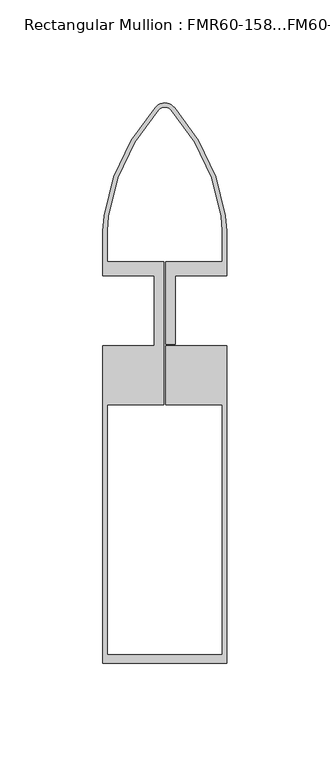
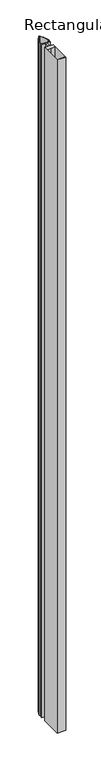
"""IFC4 building model written with IfcOpenShell, lengths in millimetres: member geometry, Rectangular Mullion : FMR60-158...FM60-80."""

from ifc_helpers import new_model, si_unit, frame, origin, place, context, project, spatial, polyline, circle_curve, source, transform, mapped, element, save
from ifc_brep_helpers import plane_surface, cylinder_surface, revolved_surface, advanced_brep


def rectangular_mullion_fmr60_158_fm60_80_e0a089fe(model_context):
    return source(origin(), model_context, "Body", "AdvancedBrep", [
        advanced_brep(
        [(-29.4612692, 46.2333488, 0.0), (-30.0, 38.9133183, 0.0), (-30.0, 17.0, 0.0), (-5.0, 17.0, 0.0), (-5.0, -17.0, 0.0), (-30.0, -17.0, 0.0), (-30.0, -171.009342, 0.0), (30.0, -171.009342, 0.0), (30.0, -17.0, 0.0), (0.5, -17.0, 0.0), (0.5, -45.5034642, 0.0), (28.0, -45.5034642, 0.0), (28.0, -167.009342, 0.0), (-28.0, -167.009342, 0.0), (-28.0, -45.5034642, 0.0), (-0.5, -45.5034642, 0.0), (-0.5, 23.8476589, 0.0), (-28.0, 23.8476589, 0.0), (-28.0, 38.9133183, 0.0), (-27.4828185, 45.9405476, 0.0), (-3.1488975, 97.4169663, 0.0), (0.0, 98.9502996, 0.0), (3.1488975, 97.4169663, 0.0), (27.4828185, 45.9405476, 0.0), (28.0, 38.9133183, 0.0), (28.0000412, 23.8476589, 0.0), (0.5, 23.8476589, 0.0), (0.5, -16.2, 0.0), (5.0, -16.2, 0.0), (5.0, 17.0, 0.0), (30.0, 17.0, 0.0), (30.0, 38.9133183, 0.0), (29.4612692, 46.2333488, 0.0), (4.7233463, 98.6502996, 0.0), (0.0, 100.9502996, 0.0), (-4.7233463, 98.6502996, 0.0), (-29.4612692, 46.2333488, -5000.0), (-4.7233463, 98.6502996, -5000.0), (0.0, 100.9502996, -5000.0), (4.7233463, 98.6502996, -5000.0), (29.4612692, 46.2333488, -5000.0), (30.0, 38.9133183, -5000.0), (30.0, 17.0, -5000.0), (5.0, 17.0, -5000.0), (5.0, -16.2, -5000.0), (0.5, -16.2, -5000.0), (0.5, 23.8476589, -5000.0), (28.0000412, 23.8476589, -5000.0), (28.0000412, 38.9133183, -5000.0), (27.4828185, 45.9405476, -5000.0), (3.1488975, 97.4169663, -5000.0), (0.0, 98.9502996, -5000.0), (-3.1488975, 97.4169663, -5000.0), (-27.4828185, 45.9405476, -5000.0), (-28.0, 38.9133183, -5000.0), (-28.0, 23.8476589, -5000.0), (-0.5, 23.8476589, -5000.0), (-0.5, -45.5034642, -5000.0), (-28.0, -45.5034642, -5000.0), (-28.0, -167.009342, -5000.0), (28.0, -167.009342, -5000.0), (28.0, -45.5034642, -5000.0), (0.5, -45.5034642, -5000.0), (0.5, -17.0, -5000.0), (30.0, -17.0, -5000.0), (30.0, -171.009342, -5000.0), (-30.0, -171.009342, -5000.0), (-30.0, -17.0, -5000.0), (-5.0, -17.0, -5000.0), (-5.0, 17.0, -5000.0), (-30.0, 17.0, -5000.0), (-30.0, 38.9133183, -5000.0)],
        [
            (0, 1, circle_curve(frame((20.0, 38.9133183, 0.0), z_axis=(0.0, 0.0, 1.0), x_axis=(-1.0, 0.0, 0.0)), 50.0)),
            (1, 2),
            (2, 3),
            (3, 4),
            (4, 5),
            (5, 6),
            (6, 7),
            (7, 8),
            (8, 9),
            (9, 10),
            (10, 11),
            (11, 12),
            (12, 13),
            (13, 14),
            (14, 15),
            (15, 16),
            (16, 17),
            (17, 18),
            (18, 19, circle_curve(frame((20.0, 38.9133183, 0.0), z_axis=(0.0, 0.0, -1.0), x_axis=(-0.9892253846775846, 0.14640060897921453, 0.0)), 48.0)),
            (19, 20, circle_curve(frame((69.5179996, 31.5761151, 0.0), z_axis=(0.0, 0.0, -1.0), x_axis=(-0.7410555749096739, 0.6714436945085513, 0.0)), 98.0586336)),
            (20, 21, circle_curve(frame((0.0, 94.9502996, 0.0), z_axis=(0.0, 0.0, -1.0), x_axis=(0.0, 1.0, 0.0)), 4.0)),
            (21, 22, circle_curve(frame((0.0, 94.9502996, 0.0), z_axis=(0.0, 0.0, -1.0), x_axis=(0.7872243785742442, 0.6166666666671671, 0.0)), 4.0)),
            (22, 23, circle_curve(frame((-69.5179996, 31.5761151, 0.0), z_axis=(0.0, 0.0, -1.0), x_axis=(0.9892124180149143, 0.14648819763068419, 0.0)), 98.0586336)),
            (23, 24, circle_curve(frame((-20.0, 38.9133183, 0.0), z_axis=(0.0, 0.0, -1.0), x_axis=(1.0, 0.0, 0.0)), 48.0)),
            (24, 25),
            (25, 26),
            (26, 27),
            (27, 28),
            (28, 29),
            (29, 30),
            (30, 31),
            (31, 32, circle_curve(frame((-20.0, 38.9133183, 0.0), z_axis=(0.0, 0.0, 1.0), x_axis=(0.9892253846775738, 0.14640060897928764, 0.0)), 50.0)),
            (32, 33, circle_curve(frame((-69.4612692, 31.5932879, 0.0), z_axis=(0.0, 0.0, 1.0), x_axis=(0.7418461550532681, 0.670570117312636, 0.0)), 100.0)),
            (33, 34, circle_curve(frame((0.0, 94.9502996, 0.0), z_axis=(0.0, 0.0, 1.0), x_axis=(0.0, 1.0, 0.0)), 6.0)),
            (34, 35, circle_curve(frame((0.0, 94.9502996, 0.0), z_axis=(0.0, 0.0, 1.0), x_axis=(-0.7872243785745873, 0.6166666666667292, 0.0)), 6.0)),
            (35, 0, circle_curve(frame((69.4612692, 31.5932879, 0.0), z_axis=(0.0, 0.0, 1.0), x_axis=(-0.9892253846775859, 0.14640060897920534, 0.0)), 100.0)),
            (36, 37, circle_curve(frame((69.4612692, 31.5932879, -5000.0), z_axis=(0.0, 0.0, -1.0), x_axis=(-0.9892253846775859, 0.14640060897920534, 0.0)), 100.0)),
            (37, 38, circle_curve(frame((0.0, 94.9502996, -5000.0), z_axis=(0.0, 0.0, -1.0), x_axis=(-0.7872243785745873, 0.6166666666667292, 0.0)), 6.0)),
            (38, 39, circle_curve(frame((0.0, 94.9502996, -5000.0), z_axis=(0.0, 0.0, -1.0), x_axis=(0.0, 1.0, 0.0)), 6.0)),
            (39, 40, circle_curve(frame((-69.4612692, 31.5932879, -5000.0), z_axis=(0.0, 0.0, -1.0), x_axis=(0.7418461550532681, 0.670570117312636, 0.0)), 100.0)),
            (40, 41, circle_curve(frame((-20.0, 38.9133183, -5000.0), z_axis=(0.0, 0.0, -1.0), x_axis=(0.9892253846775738, 0.14640060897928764, 0.0)), 50.0)),
            (41, 42),
            (42, 43),
            (43, 44),
            (44, 45),
            (45, 46),
            (46, 47),
            (47, 48),
            (48, 49, circle_curve(frame((-20.0, 38.9133183, -5000.0), z_axis=(0.0, 0.0, 1.0), x_axis=(1.0, 0.0, 0.0)), 48.0)),
            (49, 50, circle_curve(frame((-69.5179996, 31.5761151, -5000.0), z_axis=(0.0, 0.0, 1.0), x_axis=(0.9892124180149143, 0.14648819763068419, 0.0)), 98.0586336)),
            (50, 51, circle_curve(frame((0.0, 94.9502996, -5000.0), z_axis=(0.0, 0.0, 1.0), x_axis=(0.7872243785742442, 0.6166666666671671, 0.0)), 4.0)),
            (51, 52, circle_curve(frame((0.0, 94.9502996, -5000.0), z_axis=(0.0, 0.0, 1.0), x_axis=(0.0, 1.0, 0.0)), 4.0)),
            (52, 53, circle_curve(frame((69.5179996, 31.5761151, -5000.0), z_axis=(0.0, 0.0, 1.0), x_axis=(-0.7410555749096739, 0.6714436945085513, 0.0)), 98.0586336)),
            (53, 54, circle_curve(frame((20.0, 38.9133183, -5000.0), z_axis=(0.0, 0.0, 1.0), x_axis=(-0.9892253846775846, 0.14640060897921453, 0.0)), 48.0)),
            (54, 55),
            (55, 56),
            (56, 57),
            (57, 58),
            (58, 59),
            (59, 60),
            (60, 61),
            (61, 62),
            (62, 63),
            (63, 64),
            (64, 65),
            (65, 66),
            (66, 67),
            (67, 68),
            (68, 69),
            (69, 70),
            (70, 71),
            (71, 36, circle_curve(frame((20.0, 38.9133183, -5000.0), z_axis=(0.0, 0.0, -1.0), x_axis=(-1.0, 0.0, 0.0)), 50.0)),
            (0, 36),
            (71, 1),
            (70, 2),
            (69, 3),
            (68, 4),
            (67, 5),
            (66, 6),
            (65, 7),
            (64, 8),
            (63, 9),
            (62, 10),
            (61, 11),
            (60, 12),
            (59, 13),
            (58, 14),
            (57, 15),
            (56, 16),
            (55, 17),
            (54, 18),
            (53, 19),
            (52, 20),
            (51, 21),
            (50, 22),
            (49, 23),
            (48, 24),
            (47, 25),
            (46, 26),
            (45, 27),
            (44, 28),
            (43, 29),
            (42, 30),
            (41, 31),
            (40, 32),
            (39, 33),
            (38, 34),
            (37, 35),
        ],
        [
            plane_surface(frame((0.0, -173.6208371, 0.0), z_axis=(0.0, 0.0, 1.0), x_axis=(-1.0, 0.0, 0.0))),
            plane_surface(frame((0.0, -173.6208371, -5000.0), z_axis=(0.0, 0.0, -1.0), x_axis=(-1.0, 0.0, 0.0))),
            cylinder_surface(frame((20.0, 38.9133183, 0.0), z_axis=(0.0, 0.0, 1.0), x_axis=(-1.0, 0.0, 0.0)), 50.0),
            plane_surface(frame((-30.0, 38.9133183, 0.0), z_axis=(-1.0, 0.0, 0.0), x_axis=(0.0, 0.0, -1.0))),
            plane_surface(frame((-30.0, 17.0, 0.0), z_axis=(0.0, -1.0, 0.0), x_axis=(0.0, 0.0, -1.0))),
            plane_surface(frame((-5.0, 17.0, 0.0), z_axis=(-1.0, 0.0, 0.0), x_axis=(0.0, 0.0, -1.0))),
            plane_surface(frame((-5.0, -17.0, 0.0), z_axis=(0.0, 1.0, 0.0), x_axis=(0.0, 0.0, -1.0))),
            plane_surface(frame((-30.0, -17.0, 0.0), z_axis=(-1.0, 0.0, 0.0), x_axis=(0.0, 0.0, -1.0))),
            plane_surface(frame((-30.0, -171.009342, 0.0), z_axis=(0.0, -1.0, 0.0), x_axis=(0.0, 0.0, -1.0))),
            plane_surface(frame((30.0, -171.009342, 0.0), z_axis=(1.0, 0.0, 0.0), x_axis=(0.0, 0.0, -1.0))),
            plane_surface(frame((30.0, -17.0, 0.0), z_axis=(0.0, 1.0, 0.0), x_axis=(0.0, 0.0, -1.0))),
            plane_surface(frame((0.5, -17.0, 0.0), z_axis=(-1.0, 0.0, 0.0), x_axis=(0.0, 0.0, -1.0))),
            plane_surface(frame((0.5, -45.5034642, 0.0), z_axis=(0.0, -1.0, 0.0), x_axis=(0.0, 0.0, -1.0))),
            plane_surface(frame((28.0, -45.5034642, 0.0), z_axis=(-1.0, 0.0, 0.0), x_axis=(0.0, 0.0, -1.0))),
            plane_surface(frame((28.0, -167.009342, 0.0), z_axis=(0.0, 1.0, 0.0), x_axis=(0.0, 0.0, -1.0))),
            plane_surface(frame((-28.0, -167.009342, 0.0), z_axis=(1.0, 0.0, 0.0), x_axis=(0.0, 0.0, -1.0))),
            plane_surface(frame((-28.0, -45.5034642, 0.0), z_axis=(0.0, -1.0, 0.0), x_axis=(0.0, 0.0, -1.0))),
            plane_surface(frame((-0.5, -45.5034642, 0.0), z_axis=(1.0, 0.0, 0.0), x_axis=(0.0, 0.0, -1.0))),
            plane_surface(frame((-0.5, 23.8476589, 0.0), z_axis=(0.0, 1.0, 0.0), x_axis=(0.0, 0.0, -1.0))),
            plane_surface(frame((-28.0, 23.8476589, 0.0), z_axis=(1.0, 0.0, 0.0), x_axis=(0.0, 0.0, -1.0))),
            revolved_surface(polyline([(-27.48281846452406, 45.940547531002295, -5000.0), (-27.48281846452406, 45.940547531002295, 0.0)]), (20.0, 38.9133183, 0.0), (0.0, 0.0, -1.0)),
            revolved_surface(polyline([(-3.1488974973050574, 97.41696632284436, -5000.000000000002), (-3.1488974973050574, 97.41696632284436, 0.0)]), (69.5179996, 31.5761151, 0.0), (0.0, 0.0, -1.0000000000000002)),
            revolved_surface(polyline([(0.0, 98.9502996, -5000.0), (0.0, 98.9502996, 0.0)]), (0.0, 94.9502996, 0.0), (0.0, 0.0, -1.0)),
            revolved_surface(polyline([(3.148897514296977, 97.41696626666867, -5000.0), (3.148897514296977, 97.41696626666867, 0.0)]), (0.0, 94.9502996, 0.0), (0.0, 0.0, -1.0)),
            revolved_surface(polyline([(27.482818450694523, 45.94054759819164, -5000.0), (27.482818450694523, 45.94054759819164, 0.0)]), (-69.5179996, 31.5761151, 0.0), (0.0, 0.0, -1.0)),
            revolved_surface(polyline([(28.0, 38.9133183, -5000.0), (28.0, 38.9133183, 0.0)]), (-20.0, 38.9133183, 0.0), (0.0, 0.0, -1.0)),
            plane_surface(frame((28.0000412, 38.9133183, 0.0), z_axis=(-1.0, 0.0, 0.0), x_axis=(0.0, 0.0, -1.0))),
            plane_surface(frame((28.0000412, 23.8476589, 0.0), z_axis=(0.0, 1.0, 0.0), x_axis=(0.0, 0.0, -1.0))),
            plane_surface(frame((0.5, 23.8476589, 0.0), z_axis=(-1.0, 0.0, 0.0), x_axis=(0.0, 0.0, -1.0))),
            plane_surface(frame((0.5, -16.2, 0.0), z_axis=(0.0, -1.0, 0.0), x_axis=(0.0, 0.0, -1.0))),
            plane_surface(frame((5.0, -16.2, 0.0), z_axis=(1.0, 0.0, 0.0), x_axis=(0.0, 0.0, -1.0))),
            plane_surface(frame((5.0, 17.0, 0.0), z_axis=(0.0, -1.0, 0.0), x_axis=(0.0, 0.0, -1.0))),
            plane_surface(frame((30.0, 17.0, 0.0), z_axis=(1.0, 0.0, 0.0), x_axis=(0.0, 0.0, -1.0))),
            cylinder_surface(frame((-20.0, 38.9133183, 0.0), z_axis=(0.0, 0.0, 1.0000000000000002), x_axis=(0.9892253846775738, 0.14640060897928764, 0.0)), 50.0),
            cylinder_surface(frame((-69.4612692, 31.5932879, 0.0), z_axis=(0.0, 0.0, 1.0), x_axis=(0.7418461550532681, 0.670570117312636, 0.0)), 100.0),
            cylinder_surface(frame((0.0, 94.9502996, 0.0), z_axis=(0.0, 0.0, 1.0), x_axis=(0.0, 1.0, 0.0)), 6.0),
            cylinder_surface(frame((0.0, 94.9502996, 0.0), z_axis=(0.0, 0.0, 1.0), x_axis=(-0.7872243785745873, 0.6166666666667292, 0.0)), 6.0),
            cylinder_surface(frame((69.4612692, 31.5932879, 0.0), z_axis=(0.0, 0.0, 1.0), x_axis=(-0.9892253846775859, 0.14640060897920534, 0.0)), 100.0),
        ],
        [
            (0, [[1, 2, 3, 4, 5, 6, 7, 8, 9, 10, 11, 12, 13, 14, 15, 16, 17, 18, 19, 20, 21, 22, 23, 24, 25, 26, 27, 28, 29, 30, 31, 32, 33, 34, 35, 36]]),
            (1, [[37, 38, 39, 40, 41, 42, 43, 44, 45, 46, 47, 48, 49, 50, 51, 52, 53, 54, 55, 56, 57, 58, 59, 60, 61, 62, 63, 64, 65, 66, 67, 68, 69, 70, 71, 72]]),
            (2, [[-1, 73, -72, 74]]),
            (3, [[-2, -74, -71, 75]]),
            (4, [[-3, -75, -70, 76]]),
            (5, [[-4, -76, -69, 77]]),
            (6, [[-5, -77, -68, 78]]),
            (7, [[-6, -78, -67, 79]]),
            (8, [[-7, -79, -66, 80]]),
            (9, [[-8, -80, -65, 81]]),
            (10, [[-9, -81, -64, 82]]),
            (11, [[-10, -82, -63, 83]]),
            (12, [[-11, -83, -62, 84]]),
            (13, [[-12, -84, -61, 85]]),
            (14, [[-13, -85, -60, 86]]),
            (15, [[-14, -86, -59, 87]]),
            (16, [[-15, -87, -58, 88]]),
            (17, [[-16, -88, -57, 89]]),
            (18, [[-17, -89, -56, 90]]),
            (19, [[-18, -90, -55, 91]]),
            (20, [[-19, -91, -54, 92]]),
            (21, [[-20, -92, -53, 93]]),
            (22, [[-21, -93, -52, 94]]),
            (23, [[-22, -94, -51, 95]]),
            (24, [[-23, -95, -50, 96]]),
            (25, [[-24, -96, -49, 97]]),
            (26, [[-25, -97, -48, 98]]),
            (27, [[-26, -98, -47, 99]]),
            (28, [[-27, -99, -46, 100]]),
            (29, [[-28, -100, -45, 101]]),
            (30, [[-29, -101, -44, 102]]),
            (31, [[-30, -102, -43, 103]]),
            (32, [[-31, -103, -42, 104]]),
            (33, [[-32, -104, -41, 105]]),
            (34, [[-33, -105, -40, 106]]),
            (35, [[-34, -106, -39, 107]]),
            (36, [[-35, -107, -38, 108]]),
            (37, [[-36, -108, -37, -73]]),
        ],
    ),
    ])


if __name__ == "__main__":
    model = new_model("IFC4")
    model_context = context("Model", 3, world=origin())
    ifc_project = project(units=[si_unit("LENGTHUNIT", "METRE", prefix="MILLI")], contexts=[model_context])
    site = spatial("IfcSite", under=ifc_project)
    building = spatial("IfcBuilding", under=site)
    placement = place(None, origin())
    rectangular_mullion_fmr60_158_fm60_80_shape = rectangular_mullion_fmr60_158_fm60_80_e0a089fe(model_context)
    element("IfcMember", 1, ObjectType="Rectangular Mullion : FMR60-158...FM60-80", at=placement, inside=building, context=model_context, shape_type="MappedRepresentation", body=[
        mapped(rectangular_mullion_fmr60_158_fm60_80_shape, transform((0.0, 0.0, 0.0), x_axis=(1.0, 0.0, 0.0), y_axis=(0.0, 1.0, 0.0), z_axis=(0.0, 0.0, 1.0))),
    ])
    save(model, "model.ifc")
